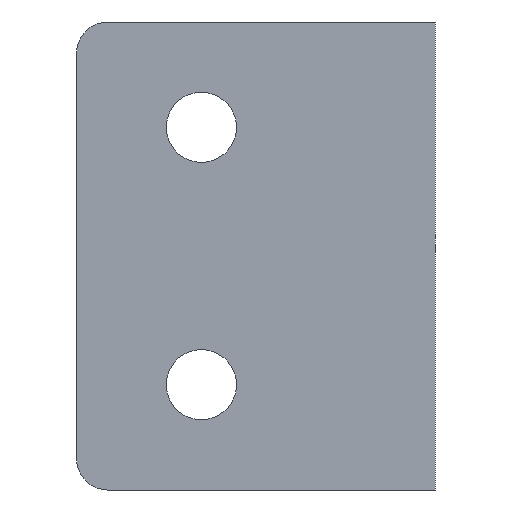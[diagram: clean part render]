
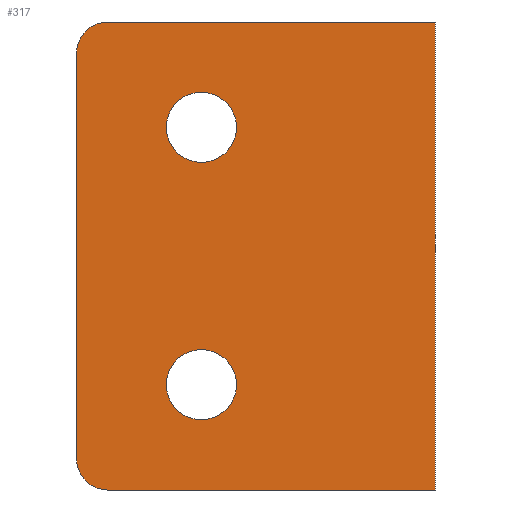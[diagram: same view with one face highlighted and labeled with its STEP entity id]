
A CAD part, left-side view. The second image highlights one B-rep face of the part: STEP entity #317.
In plain terms, the highlighted planar face has unit normal (-1, 0, 0).
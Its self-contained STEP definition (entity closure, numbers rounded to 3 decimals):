
#13 = CARTESIAN_POINT ( 'NONE',  ( 0., -8., 6.75 ) ) ;
#21 = AXIS2_PLACEMENT_3D ( 'NONE', #505, #501, #430 ) ;
#43 = CIRCLE ( 'NONE', #410, 2.25 ) ;
#64 = VERTEX_POINT ( 'NONE', #300 ) ;
#68 = CARTESIAN_POINT ( 'NONE',  ( 0., -23., 0. ) ) ;
#72 = DIRECTION ( 'NONE',  ( 1., 0., 0. ) ) ;
#81 = CARTESIAN_POINT ( 'NONE',  ( 0., -2., 30. ) ) ;
#89 = CARTESIAN_POINT ( 'NONE',  ( 0., 0., 28. ) ) ;
#107 = VERTEX_POINT ( 'NONE', #389 ) ;
#109 = CIRCLE ( 'NONE', #647, 2. ) ;
#120 = CARTESIAN_POINT ( 'NONE',  ( 0., -10.25, 23.25 ) ) ;
#123 = VECTOR ( 'NONE', #242, 1000. ) ;
#126 = DIRECTION ( 'NONE',  ( 0., -1., 0. ) ) ;
#128 = ORIENTED_EDGE ( 'NONE', *, *, #162, .T. ) ;
#142 = CARTESIAN_POINT ( 'NONE',  ( 0., -23., 0. ) ) ;
#146 = DIRECTION ( 'NONE',  ( 0., 0., -1. ) ) ;
#148 = DIRECTION ( 'NONE',  ( 1., 0., 0. ) ) ;
#162 = EDGE_CURVE ( 'NONE', #245, #64, #679, .T. ) ;
#166 = ORIENTED_EDGE ( 'NONE', *, *, #422, .T. ) ;
#169 = VERTEX_POINT ( 'NONE', #834 ) ;
#185 = LINE ( 'NONE', #895, #123 ) ;
#186 = CARTESIAN_POINT ( 'NONE',  ( 0., -8., 23.25 ) ) ;
#188 = VERTEX_POINT ( 'NONE', #885 ) ;
#199 = ORIENTED_EDGE ( 'NONE', *, *, #227, .T. ) ;
#216 = DIRECTION ( 'NONE',  ( 0., 0., -1. ) ) ;
#220 = DIRECTION ( 'NONE',  ( 1., 0., 0. ) ) ;
#226 = CARTESIAN_POINT ( 'NONE',  ( 0., -8., 23.25 ) ) ;
#227 = EDGE_CURVE ( 'NONE', #711, #107, #582, .T. ) ;
#235 = VECTOR ( 'NONE', #126, 1000. ) ;
#242 = DIRECTION ( 'NONE',  ( 0., 0., -1. ) ) ;
#245 = VERTEX_POINT ( 'NONE', #825 ) ;
#261 = ORIENTED_EDGE ( 'NONE', *, *, #376, .T. ) ;
#262 = ORIENTED_EDGE ( 'NONE', *, *, #600, .T. ) ;
#267 = EDGE_CURVE ( 'NONE', #751, #705, #596, .T. ) ;
#281 = AXIS2_PLACEMENT_3D ( 'NONE', #13, #72, #583 ) ;
#300 = CARTESIAN_POINT ( 'NONE',  ( 0., -10.25, 6.75 ) ) ;
#317 = ADVANCED_FACE ( 'NONE', ( #771, #684, #479 ), #782, .F. ) ;
#321 = EDGE_CURVE ( 'NONE', #169, #333, #414, .T. ) ;
#325 = EDGE_LOOP ( 'NONE', ( #754, #262 ) ) ;
#333 = VERTEX_POINT ( 'NONE', #120 ) ;
#347 = VERTEX_POINT ( 'NONE', #68 ) ;
#376 = EDGE_CURVE ( 'NONE', #64, #245, #480, .T. ) ;
#389 = CARTESIAN_POINT ( 'NONE',  ( 0., 0., 2. ) ) ;
#393 = VECTOR ( 'NONE', #509, 1000. ) ;
#410 = AXIS2_PLACEMENT_3D ( 'NONE', #186, #148, #146 ) ;
#414 = CIRCLE ( 'NONE', #783, 2.25 ) ;
#422 = EDGE_CURVE ( 'NONE', #188, #347, #633, .T. ) ;
#424 = CARTESIAN_POINT ( 'NONE',  ( 0., 0., 30. ) ) ;
#430 = DIRECTION ( 'NONE',  ( 0., 0., -1. ) ) ;
#458 = CARTESIAN_POINT ( 'NONE',  ( 0., -23., 30. ) ) ;
#479 = FACE_OUTER_BOUND ( 'NONE', #708, .T. ) ;
#480 = CIRCLE ( 'NONE', #281, 2.25 ) ;
#494 = CIRCLE ( 'NONE', #561, 2. ) ;
#497 = EDGE_CURVE ( 'NONE', #705, #347, #185, .T. ) ;
#501 = DIRECTION ( 'NONE',  ( 1., 0., 0. ) ) ;
#505 = CARTESIAN_POINT ( 'NONE',  ( 0., -8., 6.75 ) ) ;
#509 = DIRECTION ( 'NONE',  ( 0., -1., 0. ) ) ;
#514 = ORIENTED_EDGE ( 'NONE', *, *, #850, .T. ) ;
#531 = ORIENTED_EDGE ( 'NONE', *, *, #497, .F. ) ;
#543 = VECTOR ( 'NONE', #786, 1000. ) ;
#561 = AXIS2_PLACEMENT_3D ( 'NONE', #667, #734, #835 ) ;
#582 = LINE ( 'NONE', #424, #543 ) ;
#583 = DIRECTION ( 'NONE',  ( 0., 0., -1. ) ) ;
#584 = ORIENTED_EDGE ( 'NONE', *, *, #267, .F. ) ;
#592 = DIRECTION ( 'NONE',  ( 0., 0., -1. ) ) ;
#596 = LINE ( 'NONE', #458, #393 ) ;
#600 = EDGE_CURVE ( 'NONE', #333, #169, #43, .T. ) ;
#633 = LINE ( 'NONE', #142, #235 ) ;
#647 = AXIS2_PLACEMENT_3D ( 'NONE', #791, #806, #832 ) ;
#654 = DIRECTION ( 'NONE',  ( 1., 0., 0. ) ) ;
#667 = CARTESIAN_POINT ( 'NONE',  ( 0., -2., 28. ) ) ;
#670 = CARTESIAN_POINT ( 'NONE',  ( 0., -23., 30. ) ) ;
#679 = CIRCLE ( 'NONE', #21, 2.25 ) ;
#684 = FACE_BOUND ( 'NONE', #325, .T. ) ;
#705 = VERTEX_POINT ( 'NONE', #869 ) ;
#708 = EDGE_LOOP ( 'NONE', ( #199, #769, #166, #531, #584, #514 ) ) ;
#711 = VERTEX_POINT ( 'NONE', #89 ) ;
#734 = DIRECTION ( 'NONE',  ( -1., 0., 0. ) ) ;
#748 = EDGE_LOOP ( 'NONE', ( #128, #261 ) ) ;
#751 = VERTEX_POINT ( 'NONE', #81 ) ;
#754 = ORIENTED_EDGE ( 'NONE', *, *, #321, .T. ) ;
#769 = ORIENTED_EDGE ( 'NONE', *, *, #886, .T. ) ;
#771 = FACE_BOUND ( 'NONE', #748, .T. ) ;
#782 = PLANE ( 'NONE',  #898 ) ;
#783 = AXIS2_PLACEMENT_3D ( 'NONE', #226, #220, #216 ) ;
#786 = DIRECTION ( 'NONE',  ( 0., 0., -1. ) ) ;
#791 = CARTESIAN_POINT ( 'NONE',  ( 0., -2., 2. ) ) ;
#806 = DIRECTION ( 'NONE',  ( -1., 0., 0. ) ) ;
#825 = CARTESIAN_POINT ( 'NONE',  ( 0., -5.75, 6.75 ) ) ;
#832 = DIRECTION ( 'NONE',  ( 0., 0., -1. ) ) ;
#834 = CARTESIAN_POINT ( 'NONE',  ( 0., -5.75, 23.25 ) ) ;
#835 = DIRECTION ( 'NONE',  ( 0., 0., -1. ) ) ;
#850 = EDGE_CURVE ( 'NONE', #751, #711, #494, .T. ) ;
#869 = CARTESIAN_POINT ( 'NONE',  ( 0., -23., 30. ) ) ;
#885 = CARTESIAN_POINT ( 'NONE',  ( 0., -2., 0. ) ) ;
#886 = EDGE_CURVE ( 'NONE', #107, #188, #109, .T. ) ;
#895 = CARTESIAN_POINT ( 'NONE',  ( 0., -23., 30. ) ) ;
#898 = AXIS2_PLACEMENT_3D ( 'NONE', #670, #654, #592 ) ;
